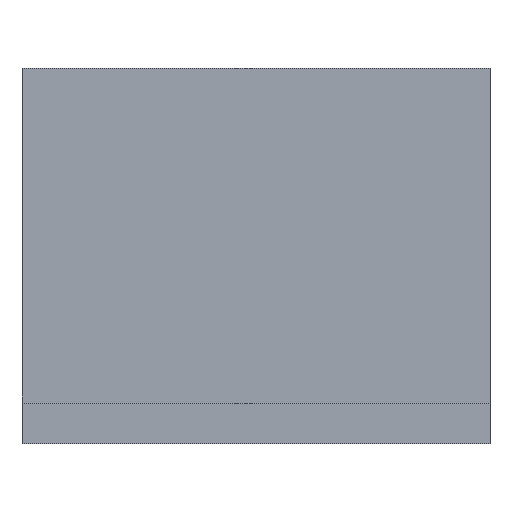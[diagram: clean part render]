
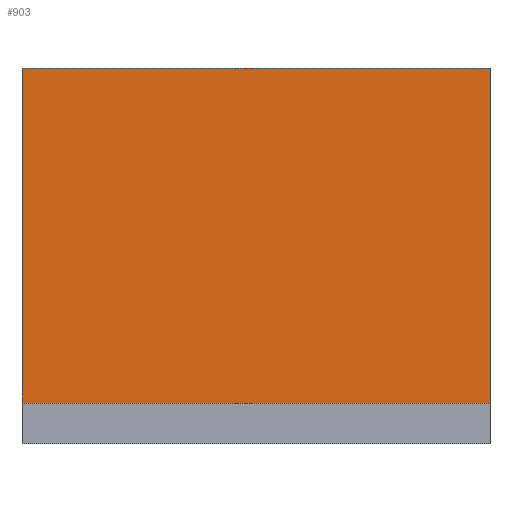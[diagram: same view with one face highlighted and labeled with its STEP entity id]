
A CAD part, front view. The second image highlights one B-rep face of the part: STEP entity #903.
In plain terms, the highlighted planar face has unit normal (0, -1, 0).
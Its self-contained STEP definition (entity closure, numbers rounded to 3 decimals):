
#249=CARTESIAN_POINT('Vertex',(0.,0.,-41.)) ;
#265=CARTESIAN_POINT('Vertex',(57.3,0.,-41.)) ;
#268=CARTESIAN_POINT('Line Origine',(28.65,0.,-41.)) ;
#851=CARTESIAN_POINT('Vertex',(0.,0.,0.)) ;
#854=CARTESIAN_POINT('Line Origine',(28.65,0.,0.)) ;
#858=CARTESIAN_POINT('Vertex',(57.3,0.,0.)) ;
#882=CARTESIAN_POINT('Axis2P3D Location',(0.,0.,0.)) ;
#887=CARTESIAN_POINT('Line Origine',(0.,0.,-20.5)) ;
#892=CARTESIAN_POINT('Line Origine',(57.3,0.,-20.5)) ;
#269=DIRECTION('Vector Direction',(-1.,0.,0.)) ;
#855=DIRECTION('Vector Direction',(1.,0.,0.)) ;
#883=DIRECTION('Axis2P3D Direction',(0.,-1.,0.)) ;
#884=DIRECTION('Axis2P3D XDirection',(0.,0.,-1.)) ;
#888=DIRECTION('Vector Direction',(0.,0.,-1.)) ;
#893=DIRECTION('Vector Direction',(0.,0.,-1.)) ;
#885=AXIS2_PLACEMENT_3D('Plane Axis2P3D',#882,#883,#884) ;
#898=ORIENTED_EDGE('',*,*,#891,.T.) ;
#899=ORIENTED_EDGE('',*,*,#272,.F.) ;
#900=ORIENTED_EDGE('',*,*,#896,.F.) ;
#901=ORIENTED_EDGE('',*,*,#860,.F.) ;
#270=VECTOR('Line Direction',#269,1.) ;
#856=VECTOR('Line Direction',#855,1.) ;
#889=VECTOR('Line Direction',#888,1.) ;
#894=VECTOR('Line Direction',#893,1.) ;
#903=ADVANCED_FACE('Hauptk\X2\00F6\X0\rper',(#902),#886,.T.) ;
#272=EDGE_CURVE('',#266,#250,#271,.T.) ;
#860=EDGE_CURVE('',#852,#859,#857,.T.) ;
#891=EDGE_CURVE('',#852,#250,#890,.T.) ;
#896=EDGE_CURVE('',#859,#266,#895,.T.) ;
#897=EDGE_LOOP('',(#898,#899,#900,#901)) ;
#902=FACE_OUTER_BOUND('',#897,.T.) ;
#271=LINE('Line',#268,#270) ;
#857=LINE('Line',#854,#856) ;
#890=LINE('Line',#887,#889) ;
#895=LINE('Line',#892,#894) ;
#886=PLANE('',#885) ;
#250=VERTEX_POINT('',#249) ;
#266=VERTEX_POINT('',#265) ;
#852=VERTEX_POINT('',#851) ;
#859=VERTEX_POINT('',#858) ;
